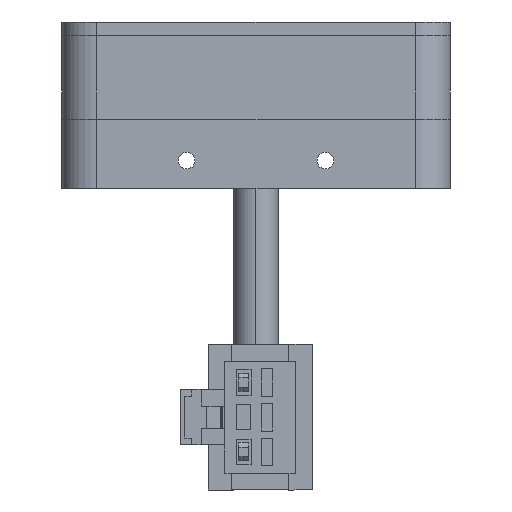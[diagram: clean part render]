
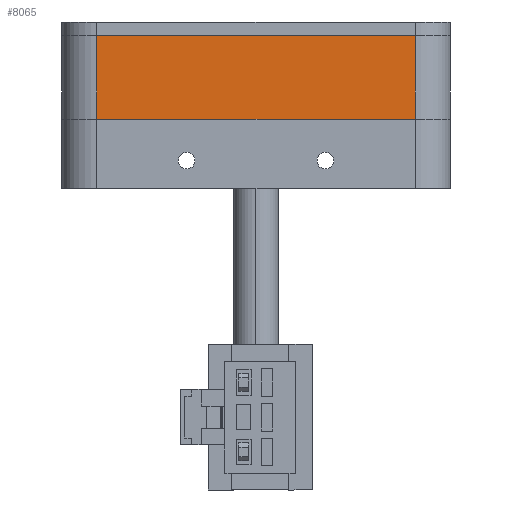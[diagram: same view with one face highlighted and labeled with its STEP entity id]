
A CAD part, front view. The second image highlights one B-rep face of the part: STEP entity #8065.
In plain terms, the highlighted planar face has unit normal (0, -1, 0).
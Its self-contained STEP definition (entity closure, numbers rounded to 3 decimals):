
#322 = EDGE_LOOP ( 'NONE', ( #4799, #2793, #4909, #1308 ) ) ;
#360 = CARTESIAN_POINT ( 'NONE',  ( 11.5, -3.2, 6. ) ) ;
#760 = DIRECTION ( 'NONE',  ( -1., 0., 0. ) ) ;
#905 = VECTOR ( 'NONE', #6760, 1000. ) ;
#968 = CARTESIAN_POINT ( 'NONE',  ( 11.5, -3.2, 0. ) ) ;
#1062 = VERTEX_POINT ( 'NONE', #360 ) ;
#1308 = ORIENTED_EDGE ( 'NONE', *, *, #7506, .T. ) ;
#1651 = DIRECTION ( 'NONE',  ( 0., 0., 1. ) ) ;
#1751 = VERTEX_POINT ( 'NONE', #8042 ) ;
#1761 = DIRECTION ( 'NONE',  ( 1., 0., 0. ) ) ;
#2236 = AXIS2_PLACEMENT_3D ( 'NONE', #2548, #6710, #8777 ) ;
#2352 = FACE_OUTER_BOUND ( 'NONE', #322, .T. ) ;
#2499 = CARTESIAN_POINT ( 'NONE',  ( 11.5, -3.2, 7. ) ) ;
#2548 = CARTESIAN_POINT ( 'NONE',  ( -14., -3.2, 7. ) ) ;
#2793 = ORIENTED_EDGE ( 'NONE', *, *, #4748, .T. ) ;
#2863 = CARTESIAN_POINT ( 'NONE',  ( -14., -3.2, 6. ) ) ;
#3091 = CARTESIAN_POINT ( 'NONE',  ( -11.5, -3.2, 7. ) ) ;
#3099 = PLANE ( 'NONE',  #2236 ) ;
#4402 = LINE ( 'NONE', #2863, #8540 ) ;
#4649 = LINE ( 'NONE', #3091, #905 ) ;
#4748 = EDGE_CURVE ( 'NONE', #1062, #1751, #4402, .T. ) ;
#4799 = ORIENTED_EDGE ( 'NONE', *, *, #8062, .T. ) ;
#4867 = EDGE_CURVE ( 'NONE', #1751, #7215, #4649, .T. ) ;
#4909 = ORIENTED_EDGE ( 'NONE', *, *, #4867, .T. ) ;
#4916 = VECTOR ( 'NONE', #1761, 1000. ) ;
#6067 = CARTESIAN_POINT ( 'NONE',  ( -14., -3.2, 0. ) ) ;
#6089 = VERTEX_POINT ( 'NONE', #968 ) ;
#6710 = DIRECTION ( 'NONE',  ( 0., 1., 0. ) ) ;
#6760 = DIRECTION ( 'NONE',  ( 0., 0., -1. ) ) ;
#7215 = VERTEX_POINT ( 'NONE', #8258 ) ;
#7506 = EDGE_CURVE ( 'NONE', #7215, #6089, #8008, .T. ) ;
#8008 = LINE ( 'NONE', #6067, #4916 ) ;
#8042 = CARTESIAN_POINT ( 'NONE',  ( -11.5, -3.2, 6. ) ) ;
#8062 = EDGE_CURVE ( 'NONE', #6089, #1062, #8923, .T. ) ;
#8065 = ADVANCED_FACE ( 'NONE', ( #2352 ), #3099, .F. ) ;
#8258 = CARTESIAN_POINT ( 'NONE',  ( -11.5, -3.2, 0. ) ) ;
#8540 = VECTOR ( 'NONE', #760, 1000. ) ;
#8777 = DIRECTION ( 'NONE',  ( 0., 0., 1. ) ) ;
#8923 = LINE ( 'NONE', #2499, #9275 ) ;
#9275 = VECTOR ( 'NONE', #1651, 1000. ) ;
